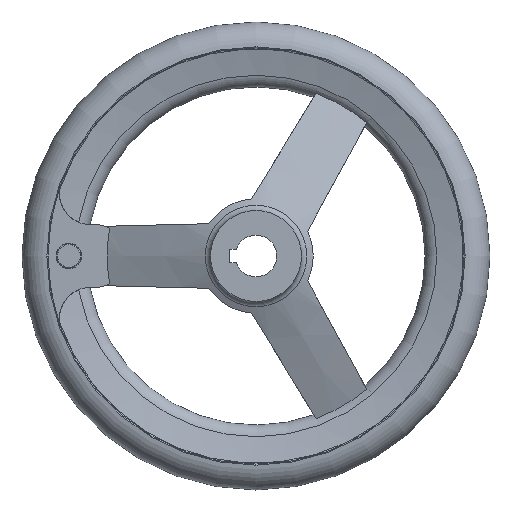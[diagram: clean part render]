
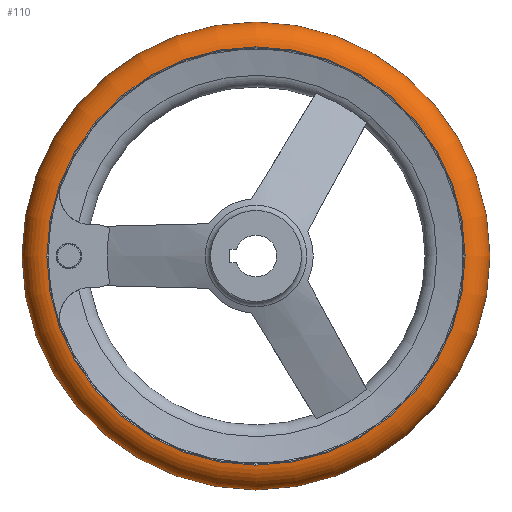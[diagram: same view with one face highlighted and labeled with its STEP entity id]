
A CAD part, left-side view. The second image highlights one B-rep face of the part: STEP entity #110.
In plain terms, the highlighted toroidal (fillet/blend) face has major radius 79.991 mm and minor radius 10.009 mm.
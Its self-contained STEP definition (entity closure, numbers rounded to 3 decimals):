
#110 = ADVANCED_FACE( '', ( #215, #216, #217 ), #218, .T. );
#215 = FACE_BOUND( '', #375, .T. );
#216 = FACE_OUTER_BOUND( '', #376, .T. );
#217 = FACE_OUTER_BOUND( '', #377, .T. );
#218 = TOROIDAL_SURFACE( '', #378, 79.991, 10.009 );
#375 = VERTEX_LOOP( '', #678 );
#376 = EDGE_LOOP( '', ( #679 ) );
#377 = EDGE_LOOP( '', ( #680 ) );
#378 = AXIS2_PLACEMENT_3D( '', #681, #682, #683 );
#678 = VERTEX_POINT( '', #874 );
#679 = ORIENTED_EDGE( '', *, *, #873, .T. );
#680 = ORIENTED_EDGE( '', *, *, #867, .F. );
#681 = CARTESIAN_POINT( '', ( 33., 0., 0. ) );
#682 = DIRECTION( '', ( 1., 0., 0. ) );
#683 = DIRECTION( '', ( 0., 1., 0. ) );
#867 = EDGE_CURVE( '', #1045, #1045, #1046, .T. );
#873 = EDGE_CURVE( '', #1056, #1056, #1057, .T. );
#874 = CARTESIAN_POINT( '', ( 33., 90., 0. ) );
#1045 = VERTEX_POINT( '', #1687 );
#1046 = CIRCLE( '', #1688, 80.417 );
#1056 = VERTEX_POINT( '', #1698 );
#1057 = CIRCLE( '', #1699, 80.417 );
#1687 = CARTESIAN_POINT( '', ( 43., 80.417, 0. ) );
#1688 = AXIS2_PLACEMENT_3D( '', #1848, #1849, #1850 );
#1698 = CARTESIAN_POINT( '', ( 23., 80.417, 0. ) );
#1699 = AXIS2_PLACEMENT_3D( '', #1866, #1867, #1868 );
#1848 = CARTESIAN_POINT( '', ( 43., 0., 0. ) );
#1849 = DIRECTION( '', ( 1., 0., 0. ) );
#1850 = DIRECTION( '', ( 0., 1., 0. ) );
#1866 = CARTESIAN_POINT( '', ( 23., 0., 0. ) );
#1867 = DIRECTION( '', ( 1., 0., 0. ) );
#1868 = DIRECTION( '', ( 0., 1., 0. ) );
